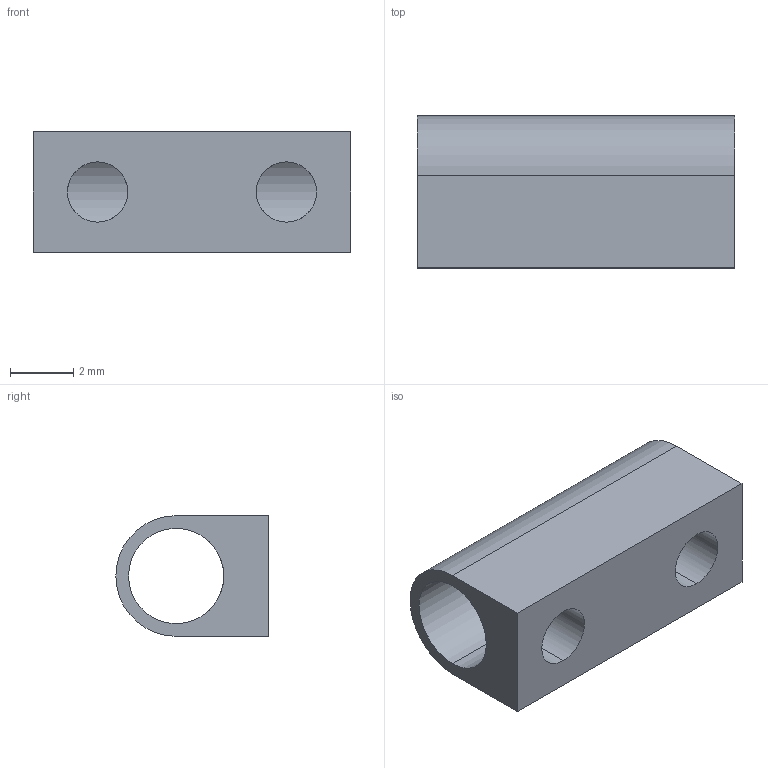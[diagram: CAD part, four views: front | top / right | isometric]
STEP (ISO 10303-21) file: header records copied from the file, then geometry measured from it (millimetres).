
FILE_DESCRIPTION (( 'STEP AP214' ), '1' );
FILE_NAME ('Terminal.STEP', '2017-12-04T12:09:56', ( 'aaa' ), ( '' ), 'SwSTEP 2.0', 'SolidWorks 2013', '' );
FILE_SCHEMA (( 'AUTOMOTIVE_DESIGN' ));
Length unit declared in the file: millimetre
Products named in the file (1): Terminal
Bounding box: 10 x 4.8 x 3.8 mm (x, y, z)
Volume: 87.8 mm3; surface area: 276.2 mm2
Topology: 1 solids, 1 shells, 12 faces, 30 edges, 20 vertices
Faces by surface type: cylinder 7, plane 5
Entity records: 474 total; most frequent: CARTESIAN_POINT 135, DIRECTION 62, ORIENTED_EDGE 60, EDGE_CURVE 30, AXIS2_PLACEMENT_3D 23, VERTEX_POINT 20, EDGE_LOOP 18, VECTOR 16
